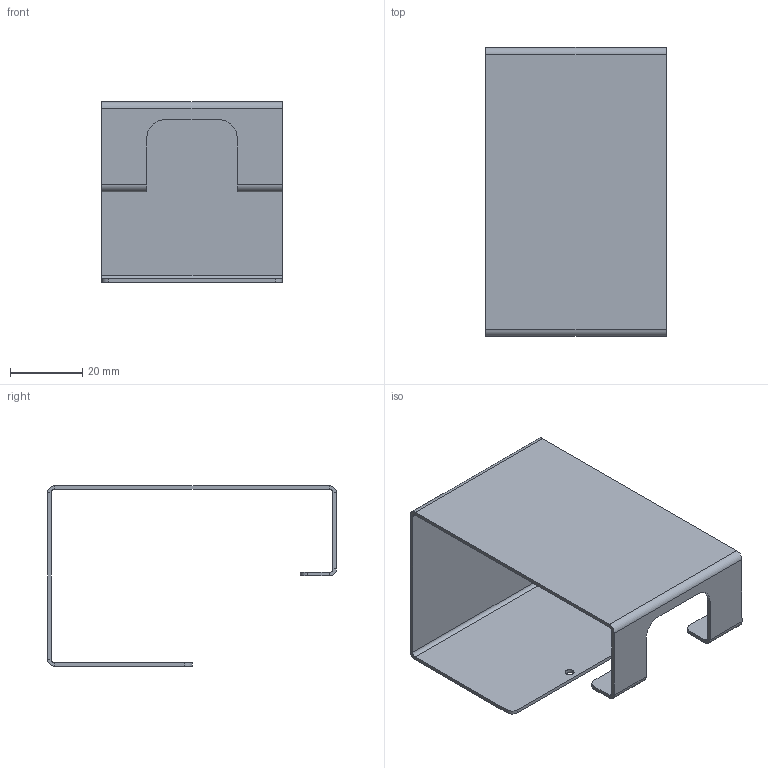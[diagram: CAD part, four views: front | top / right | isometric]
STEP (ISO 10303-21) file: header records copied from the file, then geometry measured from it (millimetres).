
FILE_DESCRIPTION (( 'STEP AP203' ), '1' );
FILE_NAME ('Uchwyt na maszynki ZAREZ.STEP', '2022-03-31T08:12:24', ( '' ), ( '' ), 'SwSTEP 2.0', 'SolidWorks 2021', '' );
FILE_SCHEMA (( 'CONFIG_CONTROL_DESIGN' ));
Length unit declared in the file: millimetre
Products named in the file (1): Uchwyt na maszynki ZAREZ
Bounding box: 50 x 80 x 50 mm (x, y, z)
Volume: 9213 mm3; surface area: 18978 mm2
Topology: 1 solids, 1 shells, 60 faces, 134 edges, 76 vertices
Faces by surface type: plane 40, cylinder 20
Entity records: 1699 total; most frequent: DIRECTION 296, CARTESIAN_POINT 271, ORIENTED_EDGE 268, EDGE_CURVE 134, AXIS2_PLACEMENT_3D 101, LINE 94, VECTOR 94, VERTEX_POINT 76
